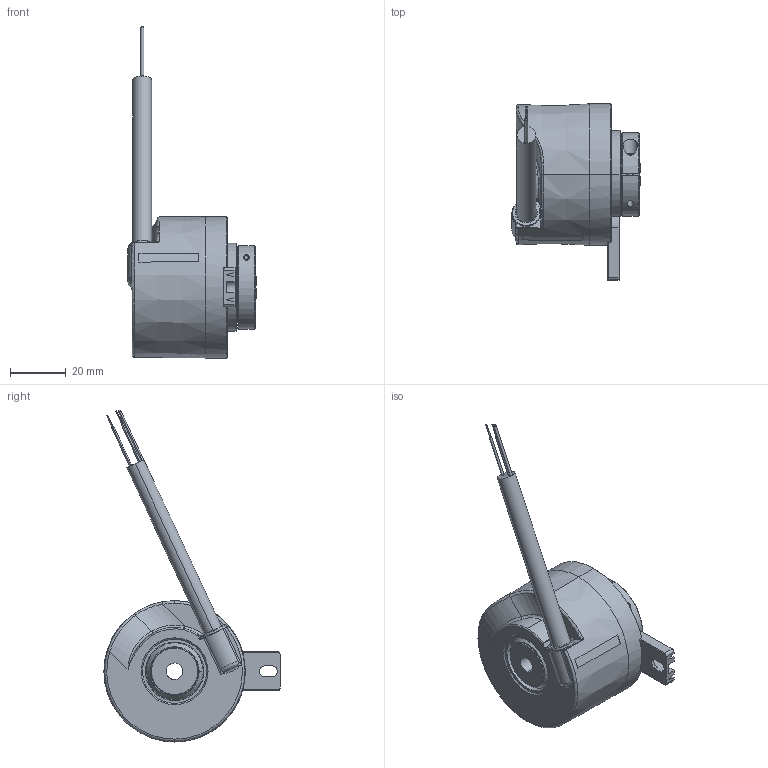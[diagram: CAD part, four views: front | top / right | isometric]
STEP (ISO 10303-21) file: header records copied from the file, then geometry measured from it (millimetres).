
FILE_DESCRIPTION (( 'STEP AP203' ), '1' );
FILE_NAME ('8.5020.21XE.XXXX.STEP', '2017-04-05T12:25:03', ( '' ), ( '' ), 'SwSTEP 2.0', 'SolidWorks 2017', '' );
FILE_SCHEMA (( 'CONFIG_CONTROL_DESIGN' ));
Length unit declared in the file: millimetre
Products named in the file (1): 8.5020.21XE.XXXX
Bounding box: 46.3 x 63.3 x 119.26 mm (x, y, z)
Volume: 43314.2 mm3; surface area: 36153.1 mm2
Topology: 19 solids, 20 shells, 1086 faces, 2702 edges, 1640 vertices
Faces by surface type: bspline 287, cylinder 280, plane 267, cone 113, torus 99, sphere 40
Entity records: 41903 total; most frequent: CARTESIAN_POINT 18469, ORIENTED_EDGE 5174, DIRECTION 4498, EDGE_CURVE 2587, AXIS2_PLACEMENT_3D 1866, VERTEX_POINT 1586, EDGE_LOOP 1199, FACE_OUTER_BOUND 1086
